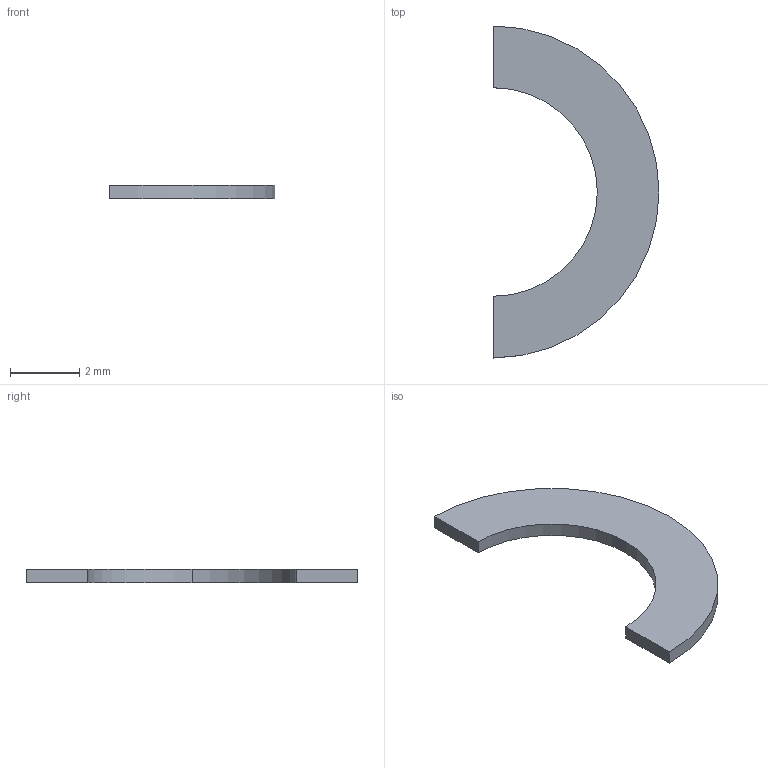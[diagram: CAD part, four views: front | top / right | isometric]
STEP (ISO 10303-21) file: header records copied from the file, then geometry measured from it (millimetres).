
FILE_DESCRIPTION(('Open CASCADE Model'),'2;1');
FILE_NAME('Open CASCADE Shape Model','2026-09-24T02:53:19',('Author'),( 'Open CASCADE'),'Open CASCADE STEP processor 7.8','Open CASCADE 7.8' ,'Unknown');
FILE_SCHEMA(('AUTOMOTIVE_DESIGN { 1 0 10303 214 1 1 1 1 }'));
Length unit declared in the file: millimetre
Products named in the file (1): Open CASCADE STEP translator 7.8 15
Bounding box: 4.8 x 9.6 x 0.4 mm (x, y, z)
Volume: 8.8 mm3; surface area: 55.1 mm2
Topology: 1 solids, 1 shells, 8 faces, 18 edges, 12 vertices
Faces by surface type: cylinder 4, plane 4
Entity records: 458 total; most frequent: CARTESIAN_POINT 91, DIRECTION 64, ORIENTED_EDGE 36, PCURVE 36, DEFINITIONAL_REPRESENTATION 36, LINE 22, VECTOR 22, EDGE_CURVE 18
